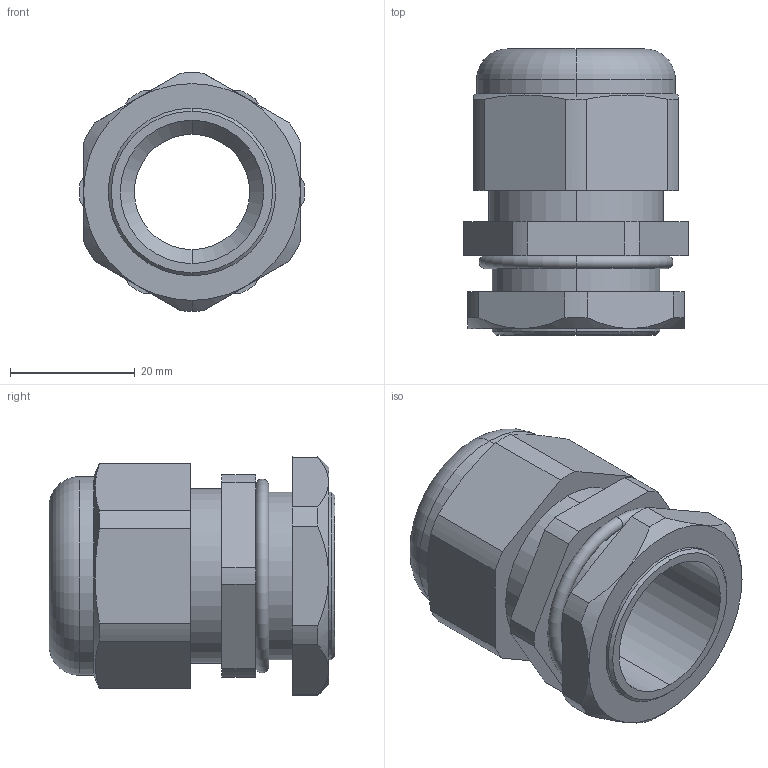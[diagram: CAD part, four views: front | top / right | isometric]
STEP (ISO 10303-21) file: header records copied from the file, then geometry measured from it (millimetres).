
FILE_DESCRIPTION (( 'STEP AP203' ), '1' );
FILE_NAME ('CH-M27.STEP', '2018-02-07T14:44:46', ( '' ), ( '' ), 'SwSTEP 2.0', 'SolidWorks 2012', '' );
FILE_SCHEMA (( 'CONFIG_CONTROL_DESIGN' ));
Length unit declared in the file: millimetre
Products named in the file (1): CH-M27
Bounding box: 36.09 x 45.9 x 38.29 mm (x, y, z)
Volume: 21979.3 mm3; surface area: 10441.9 mm2
Topology: 1 solids, 1 shells, 78 faces, 189 edges, 118 vertices
Faces by surface type: cylinder 34, plane 25, cone 15, torus 4
Entity records: 2478 total; most frequent: CARTESIAN_POINT 532, DIRECTION 415, ORIENTED_EDGE 378, EDGE_CURVE 189, AXIS2_PLACEMENT_3D 165, VERTEX_POINT 118, CIRCLE 86, LINE 85
